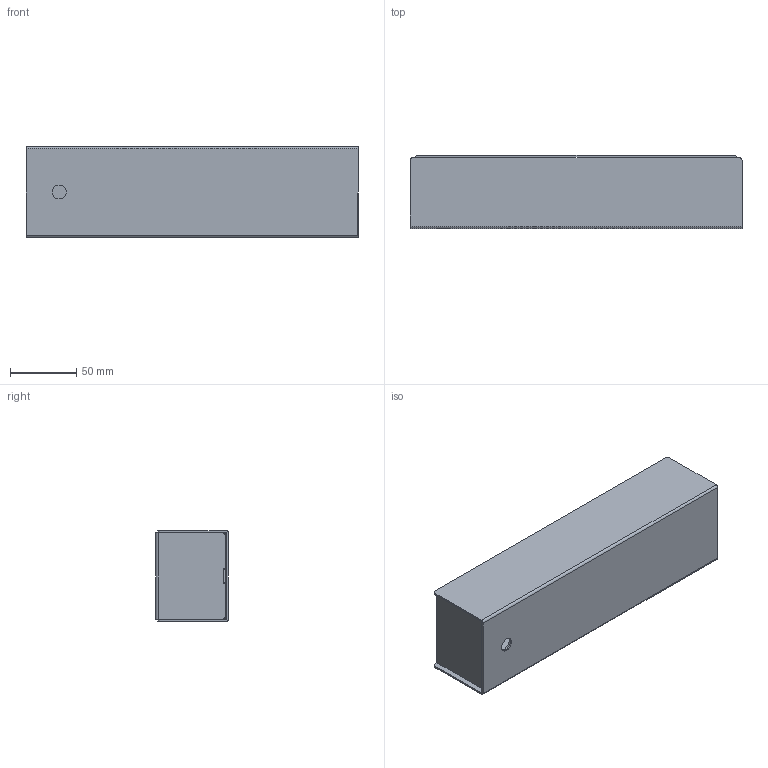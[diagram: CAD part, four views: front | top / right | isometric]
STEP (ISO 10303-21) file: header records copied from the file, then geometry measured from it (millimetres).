
FILE_DESCRIPTION (( 'STEP AP214' ), '1' );
FILE_NAME ('3D_POWER_SUPPLY_90W.STEP', '2018-04-09T12:20:06', ( 'Utente' ), ( '' ), 'SwSTEP 2.0', 'SolidWorks 2016', '' );
FILE_SCHEMA (( 'AUTOMOTIVE_DESIGN' ));
Length unit declared in the file: millimetre
Products named in the file (2): Group1^3D_POWER_SUPPLY_90W; 3D_POWER_SUPPLY_90W
Assembly tree (1 placements, depth 2):
  3D_POWER_SUPPLY_90W
    Group1^3D_POWER_SUPPLY_90W
Bounding box: 250 x 54.9 x 68.4 mm (x, y, z)
Volume: 97443.8 mm3; surface area: 134724.7 mm2
Topology: 1 solids, 1 shells, 175 faces, 410 edges, 248 vertices
Faces by surface type: plane 101, cylinder 64, cone 6, torus 4
Entity records: 5557 total; most frequent: DIRECTION 912, CARTESIAN_POINT 837, ORIENTED_EDGE 820, EDGE_CURVE 410, AXIS2_PLACEMENT_3D 323, LINE 266, VECTOR 266, VERTEX_POINT 248
